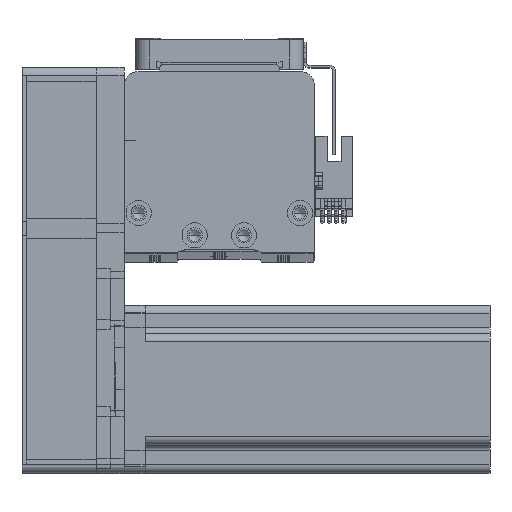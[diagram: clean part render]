
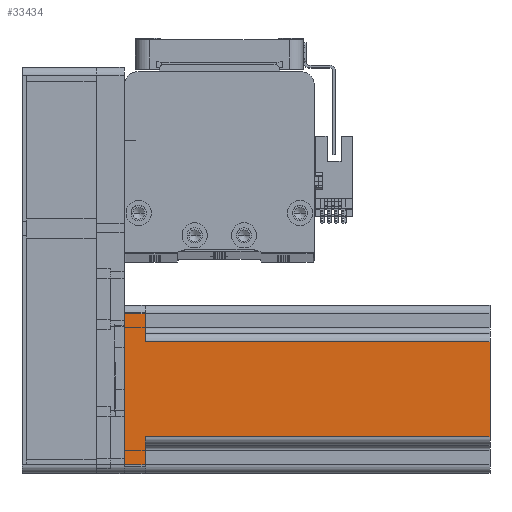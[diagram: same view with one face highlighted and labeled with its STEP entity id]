
A CAD part, top view. The second image highlights one B-rep face of the part: STEP entity #33434.
In plain terms, the highlighted planar face has unit normal (0, 0, 1) as drawn and (0, -1, 0) by its records, which use the part's own axes.
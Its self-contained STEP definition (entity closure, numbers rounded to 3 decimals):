
#979 = EDGE_CURVE ( 'NONE', #11582, #11967, #32600, .T. ) ;
#1637 = DIRECTION ( 'NONE',  ( 0., 0., -1. ) ) ;
#1742 = ORIENTED_EDGE ( 'NONE', *, *, #29890, .T. ) ;
#2306 = FACE_OUTER_BOUND ( 'NONE', #45958, .T. ) ;
#2578 = LINE ( 'NONE', #39664, #29010 ) ;
#3712 = CARTESIAN_POINT ( 'NONE',  ( 17., -30., 7.5 ) ) ;
#3902 = VECTOR ( 'NONE', #19767, 1000. ) ;
#4393 = ORIENTED_EDGE ( 'NONE', *, *, #18392, .T. ) ;
#4570 = VERTEX_POINT ( 'NONE', #3712 ) ;
#4636 = CARTESIAN_POINT ( 'NONE',  ( 30., -30., 130.7 ) ) ;
#5252 = ORIENTED_EDGE ( 'NONE', *, *, #979, .F. ) ;
#7726 = CARTESIAN_POINT ( 'NONE',  ( -17., -30., 130.7 ) ) ;
#7832 = CARTESIAN_POINT ( 'NONE',  ( 17., -30., 130.7 ) ) ;
#8267 = DIRECTION ( 'NONE',  ( -1., 0., 0. ) ) ;
#10228 = VECTOR ( 'NONE', #38920, 1000. ) ;
#10913 = DIRECTION ( 'NONE',  ( 0., 0., 1. ) ) ;
#10978 = CARTESIAN_POINT ( 'NONE',  ( 27., -30., 7.5 ) ) ;
#11582 = VERTEX_POINT ( 'NONE', #18565 ) ;
#11642 = VECTOR ( 'NONE', #1637, 1000. ) ;
#11967 = VERTEX_POINT ( 'NONE', #17448 ) ;
#12320 = EDGE_CURVE ( 'NONE', #24493, #11967, #14697, .T. ) ;
#12704 = CARTESIAN_POINT ( 'NONE',  ( 20., -30., 7.5 ) ) ;
#12908 = EDGE_CURVE ( 'NONE', #33289, #18589, #29302, .T. ) ;
#14602 = CARTESIAN_POINT ( 'NONE',  ( -27., -30., 0. ) ) ;
#14697 = LINE ( 'NONE', #45223, #42280 ) ;
#15580 = ORIENTED_EDGE ( 'NONE', *, *, #12908, .T. ) ;
#16893 = DIRECTION ( 'NONE',  ( 0., 0., 1. ) ) ;
#17394 = CARTESIAN_POINT ( 'NONE',  ( 30., -30., 130.7 ) ) ;
#17448 = CARTESIAN_POINT ( 'NONE',  ( -17., -30., 7.5 ) ) ;
#18392 = EDGE_CURVE ( 'NONE', #18589, #4570, #38392, .T. ) ;
#18565 = CARTESIAN_POINT ( 'NONE',  ( -27., -30., 7.5 ) ) ;
#18589 = VERTEX_POINT ( 'NONE', #10978 ) ;
#19740 = LINE ( 'NONE', #17394, #10228 ) ;
#19767 = DIRECTION ( 'NONE',  ( 1., 0., 0. ) ) ;
#19932 = DIRECTION ( 'NONE',  ( -1., 0., 0. ) ) ;
#21488 = VECTOR ( 'NONE', #44232, 1000. ) ;
#22695 = CARTESIAN_POINT ( 'NONE',  ( 30., -30., 0. ) ) ;
#23140 = CARTESIAN_POINT ( 'NONE',  ( -27., -30., 130.7 ) ) ;
#23383 = CARTESIAN_POINT ( 'NONE',  ( -20., -30., 7.5 ) ) ;
#24493 = VERTEX_POINT ( 'NONE', #7726 ) ;
#25222 = CARTESIAN_POINT ( 'NONE',  ( 27., -30., 0. ) ) ;
#26134 = PLANE ( 'NONE',  #38711 ) ;
#27309 = DIRECTION ( 'NONE',  ( 0., 0., -1. ) ) ;
#29010 = VECTOR ( 'NONE', #10913, 1000. ) ;
#29302 = LINE ( 'NONE', #42051, #38852 ) ;
#29792 = DIRECTION ( 'NONE',  ( 0., 1., 0. ) ) ;
#29890 = EDGE_CURVE ( 'NONE', #4570, #38426, #2578, .T. ) ;
#29950 = LINE ( 'NONE', #22695, #21488 ) ;
#31240 = ORIENTED_EDGE ( 'NONE', *, *, #12320, .T. ) ;
#31309 = ORIENTED_EDGE ( 'NONE', *, *, #41101, .T. ) ;
#32600 = LINE ( 'NONE', #23383, #3902 ) ;
#33289 = VERTEX_POINT ( 'NONE', #25222 ) ;
#33434 = ADVANCED_FACE ( 'NONE', ( #2306 ), #26134, .F. ) ;
#35256 = EDGE_CURVE ( 'NONE', #39399, #33289, #29950, .T. ) ;
#36773 = ORIENTED_EDGE ( 'NONE', *, *, #35256, .T. ) ;
#38392 = LINE ( 'NONE', #12704, #39510 ) ;
#38426 = VERTEX_POINT ( 'NONE', #7832 ) ;
#38711 = AXIS2_PLACEMENT_3D ( 'NONE', #4636, #29792, #8267 ) ;
#38852 = VECTOR ( 'NONE', #16893, 1000. ) ;
#38920 = DIRECTION ( 'NONE',  ( 1., 0., 0. ) ) ;
#39213 = LINE ( 'NONE', #23140, #11642 ) ;
#39399 = VERTEX_POINT ( 'NONE', #14602 ) ;
#39510 = VECTOR ( 'NONE', #19932, 1000. ) ;
#39664 = CARTESIAN_POINT ( 'NONE',  ( 17., -30., 130.7 ) ) ;
#41101 = EDGE_CURVE ( 'NONE', #11582, #39399, #39213, .T. ) ;
#42051 = CARTESIAN_POINT ( 'NONE',  ( 27., -30., 130.7 ) ) ;
#42280 = VECTOR ( 'NONE', #27309, 1000. ) ;
#44232 = DIRECTION ( 'NONE',  ( 1., 0., 0. ) ) ;
#45223 = CARTESIAN_POINT ( 'NONE',  ( -17., -30., 130.7 ) ) ;
#45682 = EDGE_CURVE ( 'NONE', #24493, #38426, #19740, .T. ) ;
#45958 = EDGE_LOOP ( 'NONE', ( #46051, #31240, #5252, #31309, #36773, #15580, #4393, #1742 ) ) ;
#46051 = ORIENTED_EDGE ( 'NONE', *, *, #45682, .F. ) ;
